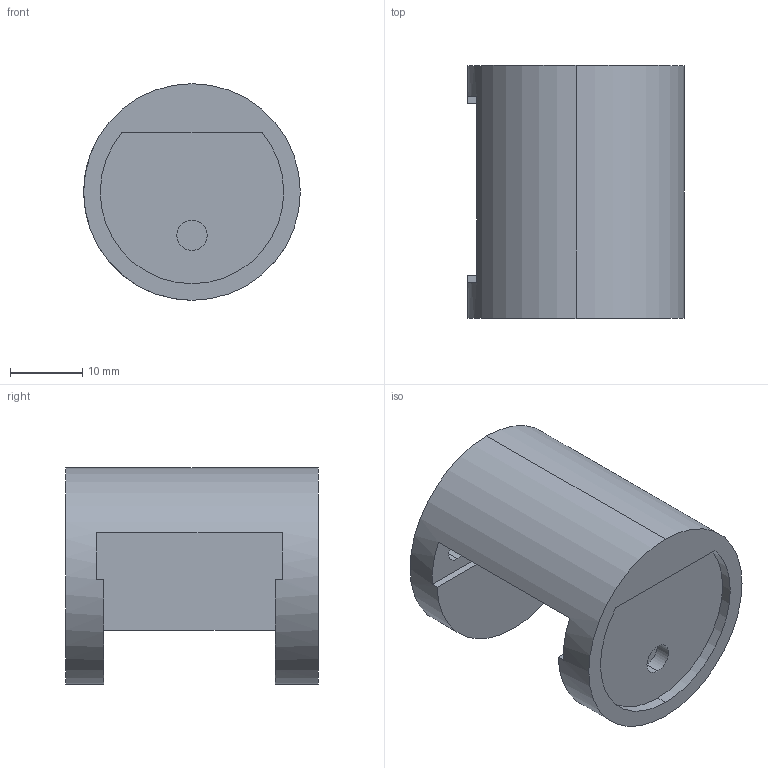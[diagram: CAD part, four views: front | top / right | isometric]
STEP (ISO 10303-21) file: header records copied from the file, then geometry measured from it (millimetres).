
FILE_DESCRIPTION (( 'STEP AP214' ), '1' );
FILE_NAME ('grating holder.STEP', '2021-02-04T23:09:47', ( '' ), ( '' ), 'SwSTEP 2.0', 'SolidWorks 2020', '' );
FILE_SCHEMA (( 'AUTOMOTIVE_DESIGN' ));
Length unit declared in the file: millimetre
Products named in the file (1): grating holder
Bounding box: 30 x 35 x 30 mm (x, y, z)
Volume: 11543.6 mm3; surface area: 5915.5 mm2
Topology: 1 solids, 1 shells, 23 faces, 57 edges, 38 vertices
Faces by surface type: plane 13, cylinder 10
Entity records: 739 total; most frequent: DIRECTION 131, CARTESIAN_POINT 119, ORIENTED_EDGE 114, EDGE_CURVE 57, AXIS2_PLACEMENT_3D 50, VERTEX_POINT 38, LINE 31, VECTOR 31
